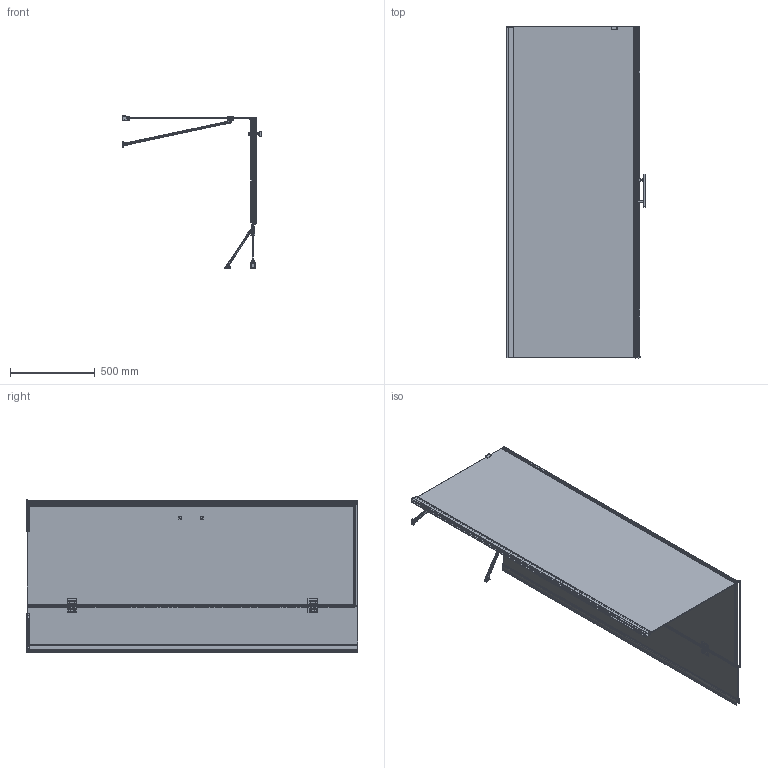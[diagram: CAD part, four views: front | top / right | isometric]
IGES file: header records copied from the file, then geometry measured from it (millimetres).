
Global section: file name: dfed3136-b3b5-48d9-afad-40750a7a4989; native system: unknown; preprocessor: unknown; author: unknown; organization: unknown; date: 20201021.071054; units: millimetre
Bounding box: 820.23 x 1955.35 x 896.87 mm (x, y, z)
Volume: 19514467.5 mm3; surface area: 8372347.9 mm2
Topology: 64 solids, 64 shells, 3394 faces, 8774 edges, 5492 vertices
Faces by surface type: bspline 3393, offset 1
